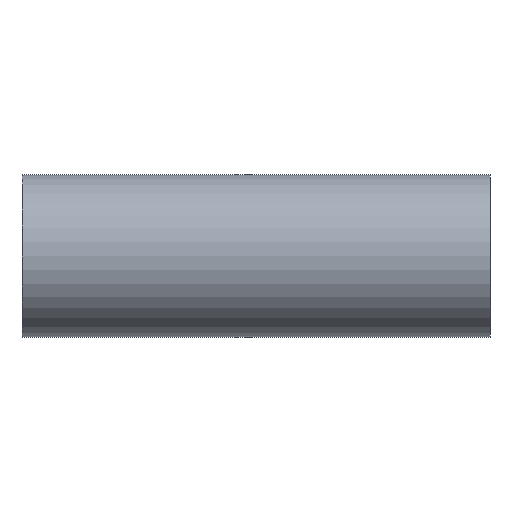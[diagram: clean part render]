
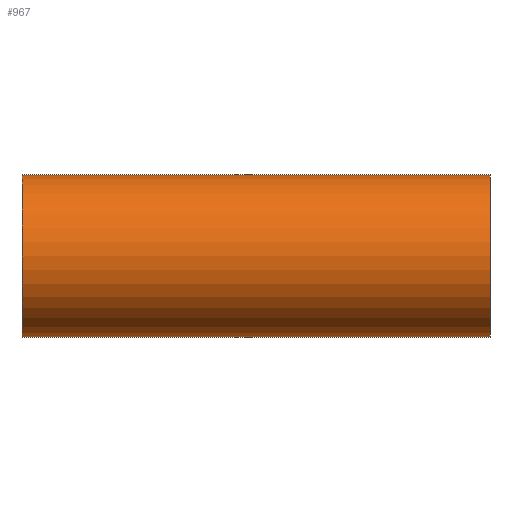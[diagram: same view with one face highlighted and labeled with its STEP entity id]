
A CAD part, front view. The second image highlights one B-rep face of the part: STEP entity #967.
In plain terms, the highlighted cylindrical face has radius 25.4 mm (diameter 50.8 mm), a partial arc.
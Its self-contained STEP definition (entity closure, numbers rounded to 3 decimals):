
#86 = CIRCLE ( 'NONE', #696, 25.4 ) ;
#118 = VERTEX_POINT ( 'NONE', #654 ) ;
#165 = CARTESIAN_POINT ( 'NONE',  ( -73., 0., 25.4 ) ) ;
#244 = LINE ( 'NONE', #722, #1152 ) ;
#245 = ORIENTED_EDGE ( 'NONE', *, *, #1060, .T. ) ;
#342 = CYLINDRICAL_SURFACE ( 'NONE', #798, 25.4 ) ;
#352 = DIRECTION ( 'NONE',  ( 1., 0., 0. ) ) ;
#396 = ORIENTED_EDGE ( 'NONE', *, *, #472, .F. ) ;
#402 = AXIS2_PLACEMENT_3D ( 'NONE', #460, #457, #439 ) ;
#439 = DIRECTION ( 'NONE',  ( 0., 0., -1. ) ) ;
#448 = VERTEX_POINT ( 'NONE', #1153 ) ;
#457 = DIRECTION ( 'NONE',  ( 1., 0., 0. ) ) ;
#460 = CARTESIAN_POINT ( 'NONE',  ( -73., 0., 0. ) ) ;
#472 = EDGE_CURVE ( 'NONE', #529, #118, #579, .T. ) ;
#490 = ORIENTED_EDGE ( 'NONE', *, *, #500, .T. ) ;
#500 = EDGE_CURVE ( 'NONE', #529, #448, #625, .T. ) ;
#512 = DIRECTION ( 'NONE',  ( 0., 0., -1. ) ) ;
#517 = DIRECTION ( 'NONE',  ( -1., 0., 0. ) ) ;
#529 = VERTEX_POINT ( 'NONE', #165 ) ;
#534 = ORIENTED_EDGE ( 'NONE', *, *, #716, .T. ) ;
#577 = EDGE_LOOP ( 'NONE', ( #396, #490, #245, #534 ) ) ;
#579 = LINE ( 'NONE', #884, #592 ) ;
#592 = VECTOR ( 'NONE', #813, 1000. ) ;
#625 = CIRCLE ( 'NONE', #402, 25.4 ) ;
#633 = DIRECTION ( 'NONE',  ( 0., 0., -1. ) ) ;
#654 = CARTESIAN_POINT ( 'NONE',  ( 73., 0., 25.4 ) ) ;
#696 = AXIS2_PLACEMENT_3D ( 'NONE', #995, #517, #512 ) ;
#716 = EDGE_CURVE ( 'NONE', #1167, #118, #86, .T. ) ;
#722 = CARTESIAN_POINT ( 'NONE',  ( -73., 0., -25.4 ) ) ;
#798 = AXIS2_PLACEMENT_3D ( 'NONE', #908, #1168, #633 ) ;
#813 = DIRECTION ( 'NONE',  ( 1., 0., 0. ) ) ;
#884 = CARTESIAN_POINT ( 'NONE',  ( -73., 0., 25.4 ) ) ;
#908 = CARTESIAN_POINT ( 'NONE',  ( -73., 0., 0. ) ) ;
#960 = CARTESIAN_POINT ( 'NONE',  ( 73., 0., -25.4 ) ) ;
#967 = ADVANCED_FACE ( 'NONE', ( #1189 ), #342, .T. ) ;
#995 = CARTESIAN_POINT ( 'NONE',  ( 73., 0., 0. ) ) ;
#1060 = EDGE_CURVE ( 'NONE', #448, #1167, #244, .T. ) ;
#1152 = VECTOR ( 'NONE', #352, 1000. ) ;
#1153 = CARTESIAN_POINT ( 'NONE',  ( -73., 0., -25.4 ) ) ;
#1167 = VERTEX_POINT ( 'NONE', #960 ) ;
#1168 = DIRECTION ( 'NONE',  ( 1., 0., 0. ) ) ;
#1189 = FACE_OUTER_BOUND ( 'NONE', #577, .T. ) ;
